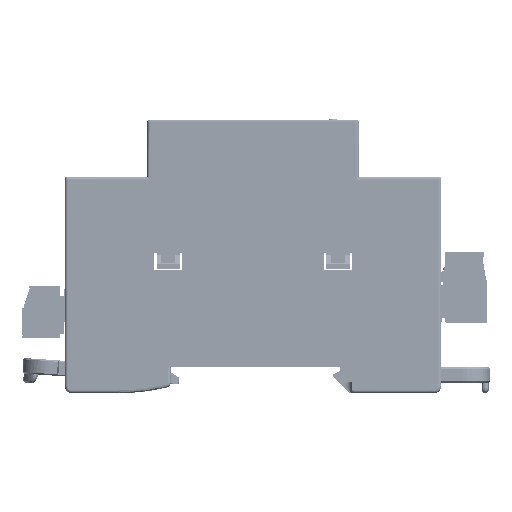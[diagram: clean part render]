
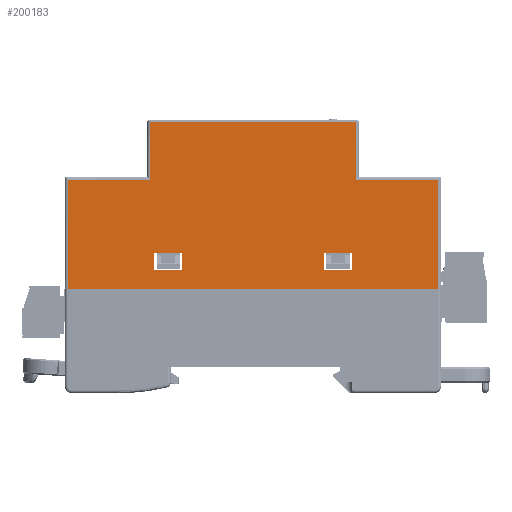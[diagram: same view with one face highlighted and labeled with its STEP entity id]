
A CAD part, left-side view. The second image highlights one B-rep face of the part: STEP entity #200183.
In plain terms, the highlighted planar face has unit normal (-1, 0, 0).
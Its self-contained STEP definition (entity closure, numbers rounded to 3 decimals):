
#5788 = VECTOR ( 'NONE', #281612, 1000. ) ;
#10684 = PLANE ( 'NONE',  #250068 ) ;
#11456 = DIRECTION ( 'NONE',  ( 0., 1., 0. ) ) ;
#11547 = ORIENTED_EDGE ( 'NONE', *, *, #237724, .T. ) ;
#12984 = VECTOR ( 'NONE', #312222, 1000. ) ;
#14773 = CARTESIAN_POINT ( 'NONE',  ( -1525.677, -24.092, 34.25 ) ) ;
#18010 = VECTOR ( 'NONE', #263261, 1000. ) ;
#19857 = ORIENTED_EDGE ( 'NONE', *, *, #304219, .T. ) ;
#22956 = LINE ( 'NONE', #332349, #291271 ) ;
#23177 = CARTESIAN_POINT ( 'NONE',  ( -1525.677, 19.708, 22.55 ) ) ;
#26272 = VERTEX_POINT ( 'NONE', #99029 ) ;
#26317 = EDGE_CURVE ( 'NONE', #344033, #268656, #206100, .T. ) ;
#27653 = FACE_OUTER_BOUND ( 'NONE', #138189, .T. ) ;
#30095 = CARTESIAN_POINT ( 'NONE',  ( -1525.677, 12.808, 6.25 ) ) ;
#34269 = EDGE_CURVE ( 'NONE', #117763, #97683, #287535, .T. ) ;
#36485 = CARTESIAN_POINT ( 'NONE',  ( -1525.677, -41.592, -1.25 ) ) ;
#38662 = LINE ( 'NONE', #193434, #12984 ) ;
#41143 = LINE ( 'NONE', #314689, #201509 ) ;
#42653 = CARTESIAN_POINT ( 'NONE',  ( -1525.677, 18.808, 2.75 ) ) ;
#47462 = LINE ( 'NONE', #285228, #138579 ) ;
#51897 = DIRECTION ( 'NONE',  ( 0., 0., -1. ) ) ;
#53541 = ORIENTED_EDGE ( 'NONE', *, *, #189859, .T. ) ;
#54760 = EDGE_CURVE ( 'NONE', #92588, #26272, #47462, .T. ) ;
#59253 = VERTEX_POINT ( 'NONE', #133479 ) ;
#60422 = VECTOR ( 'NONE', #306889, 1000. ) ;
#61648 = LINE ( 'NONE', #269688, #5788 ) ;
#68878 = ORIENTED_EDGE ( 'NONE', *, *, #298510, .T. ) ;
#76136 = VECTOR ( 'NONE', #230973, 1000. ) ;
#79040 = CARTESIAN_POINT ( 'NONE',  ( -1525.677, -23.192, 2.75 ) ) ;
#79566 = EDGE_CURVE ( 'NONE', #248680, #192900, #38662, .T. ) ;
#84560 = CARTESIAN_POINT ( 'NONE',  ( -1525.677, 37.208, -1.25 ) ) ;
#86030 = LINE ( 'NONE', #294087, #96569 ) ;
#92445 = DIRECTION ( 'NONE',  ( 0., 1., 0. ) ) ;
#92588 = VERTEX_POINT ( 'NONE', #14773 ) ;
#92972 = EDGE_CURVE ( 'NONE', #251967, #307831, #22956, .T. ) ;
#96569 = VECTOR ( 'NONE', #234480, 1000. ) ;
#97683 = VERTEX_POINT ( 'NONE', #154993 ) ;
#99029 = CARTESIAN_POINT ( 'NONE',  ( -1525.677, 19.708, 34.25 ) ) ;
#100001 = VERTEX_POINT ( 'NONE', #188792 ) ;
#106722 = EDGE_CURVE ( 'NONE', #307831, #135533, #207590, .T. ) ;
#111190 = ORIENTED_EDGE ( 'NONE', *, *, #313657, .T. ) ;
#117763 = VERTEX_POINT ( 'NONE', #245879 ) ;
#123918 = LINE ( 'NONE', #314214, #76136 ) ;
#128578 = EDGE_CURVE ( 'NONE', #192900, #344033, #61648, .T. ) ;
#132398 = CARTESIAN_POINT ( 'NONE',  ( -1525.677, 37.208, 21.95 ) ) ;
#133479 = CARTESIAN_POINT ( 'NONE',  ( -1525.677, -17.192, 6.25 ) ) ;
#135533 = VERTEX_POINT ( 'NONE', #150887 ) ;
#137132 = ORIENTED_EDGE ( 'NONE', *, *, #225950, .T. ) ;
#138189 = EDGE_LOOP ( 'NONE', ( #232273, #220356, #359433, #53541, #160866, #111190, #368669, #234606 ) ) ;
#138579 = VECTOR ( 'NONE', #308994, 1000. ) ;
#138983 = EDGE_CURVE ( 'NONE', #363459, #100001, #345346, .T. ) ;
#141980 = LINE ( 'NONE', #23177, #163603 ) ;
#148321 = CARTESIAN_POINT ( 'NONE',  ( -1525.677, -23.792, 2.75 ) ) ;
#150373 = CARTESIAN_POINT ( 'NONE',  ( -1525.677, -24.092, 34.25 ) ) ;
#150887 = CARTESIAN_POINT ( 'NONE',  ( -1525.677, -17.192, 2.75 ) ) ;
#153429 = DIRECTION ( 'NONE',  ( 1., 0., 0. ) ) ;
#153954 = ORIENTED_EDGE ( 'NONE', *, *, #106722, .T. ) ;
#154993 = CARTESIAN_POINT ( 'NONE',  ( -1525.677, -24.092, 21.95 ) ) ;
#156492 = LINE ( 'NONE', #150373, #18010 ) ;
#160866 = ORIENTED_EDGE ( 'NONE', *, *, #54760, .T. ) ;
#161434 = CARTESIAN_POINT ( 'NONE',  ( -1525.677, 12.208, 2.75 ) ) ;
#163603 = VECTOR ( 'NONE', #332327, 1000. ) ;
#165192 = EDGE_CURVE ( 'NONE', #100001, #364991, #321942, .T. ) ;
#178628 = CARTESIAN_POINT ( 'NONE',  ( -1525.677, 18.808, 6.6 ) ) ;
#184854 = CARTESIAN_POINT ( 'NONE',  ( -1525.677, 12.808, 2.4 ) ) ;
#188521 = FACE_BOUND ( 'NONE', #246843, .T. ) ;
#188792 = CARTESIAN_POINT ( 'NONE',  ( -1525.677, 12.808, 2.75 ) ) ;
#189859 = EDGE_CURVE ( 'NONE', #97683, #92588, #156492, .T. ) ;
#192900 = VERTEX_POINT ( 'NONE', #132398 ) ;
#193434 = CARTESIAN_POINT ( 'NONE',  ( -1525.677, 37.508, 21.95 ) ) ;
#200183 = ADVANCED_FACE ( 'NONE', ( #27653, #247719, #188521 ), #10684, .F. ) ;
#201509 = VECTOR ( 'NONE', #284827, 1000. ) ;
#204652 = VECTOR ( 'NONE', #295425, 1000. ) ;
#205784 = VECTOR ( 'NONE', #360857, 1000. ) ;
#206100 = LINE ( 'NONE', #283368, #204652 ) ;
#207590 = LINE ( 'NONE', #148321, #242460 ) ;
#212508 = CARTESIAN_POINT ( 'NONE',  ( -1525.677, 18.808, 6.25 ) ) ;
#218807 = CARTESIAN_POINT ( 'NONE',  ( -1525.677, 37.808, 34.55 ) ) ;
#220356 = ORIENTED_EDGE ( 'NONE', *, *, #236423, .T. ) ;
#225950 = EDGE_CURVE ( 'NONE', #364991, #286965, #232255, .T. ) ;
#230973 = DIRECTION ( 'NONE',  ( 0., -1., 0. ) ) ;
#232255 = LINE ( 'NONE', #178628, #266033 ) ;
#232273 = ORIENTED_EDGE ( 'NONE', *, *, #26317, .T. ) ;
#234480 = DIRECTION ( 'NONE',  ( 0., -1., 0. ) ) ;
#234606 = ORIENTED_EDGE ( 'NONE', *, *, #128578, .T. ) ;
#236423 = EDGE_CURVE ( 'NONE', #268656, #117763, #337130, .T. ) ;
#237724 = EDGE_CURVE ( 'NONE', #135533, #59253, #41143, .T. ) ;
#242460 = VECTOR ( 'NONE', #11456, 1000. ) ;
#244013 = ORIENTED_EDGE ( 'NONE', *, *, #92972, .T. ) ;
#245879 = CARTESIAN_POINT ( 'NONE',  ( -1525.677, -41.592, 21.95 ) ) ;
#246843 = EDGE_LOOP ( 'NONE', ( #68878, #260224, #314381, #137132 ) ) ;
#247719 = FACE_BOUND ( 'NONE', #363882, .T. ) ;
#248680 = VERTEX_POINT ( 'NONE', #284470 ) ;
#250068 = AXIS2_PLACEMENT_3D ( 'NONE', #218807, #153429, #51897 ) ;
#250626 = VECTOR ( 'NONE', #351735, 1000. ) ;
#251967 = VERTEX_POINT ( 'NONE', #307715 ) ;
#260224 = ORIENTED_EDGE ( 'NONE', *, *, #138983, .T. ) ;
#263261 = DIRECTION ( 'NONE',  ( 0., 0., 1. ) ) ;
#266033 = VECTOR ( 'NONE', #351116, 1000. ) ;
#268656 = VERTEX_POINT ( 'NONE', #36485 ) ;
#269688 = CARTESIAN_POINT ( 'NONE',  ( -1525.677, 37.208, -1.25 ) ) ;
#281612 = DIRECTION ( 'NONE',  ( 0., 0., -1. ) ) ;
#283368 = CARTESIAN_POINT ( 'NONE',  ( -1525.677, 37.808, -1.25 ) ) ;
#283613 = CARTESIAN_POINT ( 'NONE',  ( -1525.677, -41.592, 22.25 ) ) ;
#284470 = CARTESIAN_POINT ( 'NONE',  ( -1525.677, 19.708, 21.95 ) ) ;
#284827 = DIRECTION ( 'NONE',  ( 0., 0., 1. ) ) ;
#285228 = CARTESIAN_POINT ( 'NONE',  ( -1525.677, 20.008, 34.25 ) ) ;
#286965 = VERTEX_POINT ( 'NONE', #212508 ) ;
#287535 = LINE ( 'NONE', #305450, #348756 ) ;
#291271 = VECTOR ( 'NONE', #326251, 1000. ) ;
#294087 = CARTESIAN_POINT ( 'NONE',  ( -1525.677, -23.792, 6.25 ) ) ;
#295425 = DIRECTION ( 'NONE',  ( 0., -1., 0. ) ) ;
#298510 = EDGE_CURVE ( 'NONE', #286965, #363459, #123918, .T. ) ;
#304219 = EDGE_CURVE ( 'NONE', #59253, #251967, #86030, .T. ) ;
#305450 = CARTESIAN_POINT ( 'NONE',  ( -1525.677, -24.692, 21.95 ) ) ;
#306889 = DIRECTION ( 'NONE',  ( 0., 0., -1. ) ) ;
#307715 = CARTESIAN_POINT ( 'NONE',  ( -1525.677, -23.192, 6.25 ) ) ;
#307831 = VERTEX_POINT ( 'NONE', #79040 ) ;
#308994 = DIRECTION ( 'NONE',  ( 0., 1., 0. ) ) ;
#312222 = DIRECTION ( 'NONE',  ( 0., 1., 0. ) ) ;
#313657 = EDGE_CURVE ( 'NONE', #26272, #248680, #141980, .T. ) ;
#314214 = CARTESIAN_POINT ( 'NONE',  ( -1525.677, 12.208, 6.25 ) ) ;
#314381 = ORIENTED_EDGE ( 'NONE', *, *, #165192, .T. ) ;
#314689 = CARTESIAN_POINT ( 'NONE',  ( -1525.677, -17.192, 6.6 ) ) ;
#321942 = LINE ( 'NONE', #161434, #250626 ) ;
#326251 = DIRECTION ( 'NONE',  ( 0., 0., -1. ) ) ;
#332327 = DIRECTION ( 'NONE',  ( 0., 0., -1. ) ) ;
#332349 = CARTESIAN_POINT ( 'NONE',  ( -1525.677, -23.192, 2.4 ) ) ;
#337130 = LINE ( 'NONE', #283613, #205784 ) ;
#344033 = VERTEX_POINT ( 'NONE', #84560 ) ;
#345346 = LINE ( 'NONE', #184854, #60422 ) ;
#348756 = VECTOR ( 'NONE', #92445, 1000. ) ;
#351116 = DIRECTION ( 'NONE',  ( 0., 0., 1. ) ) ;
#351735 = DIRECTION ( 'NONE',  ( 0., 1., 0. ) ) ;
#359433 = ORIENTED_EDGE ( 'NONE', *, *, #34269, .T. ) ;
#360857 = DIRECTION ( 'NONE',  ( 0., 0., 1. ) ) ;
#363459 = VERTEX_POINT ( 'NONE', #30095 ) ;
#363882 = EDGE_LOOP ( 'NONE', ( #19857, #244013, #153954, #11547 ) ) ;
#364991 = VERTEX_POINT ( 'NONE', #42653 ) ;
#368669 = ORIENTED_EDGE ( 'NONE', *, *, #79566, .T. ) ;
